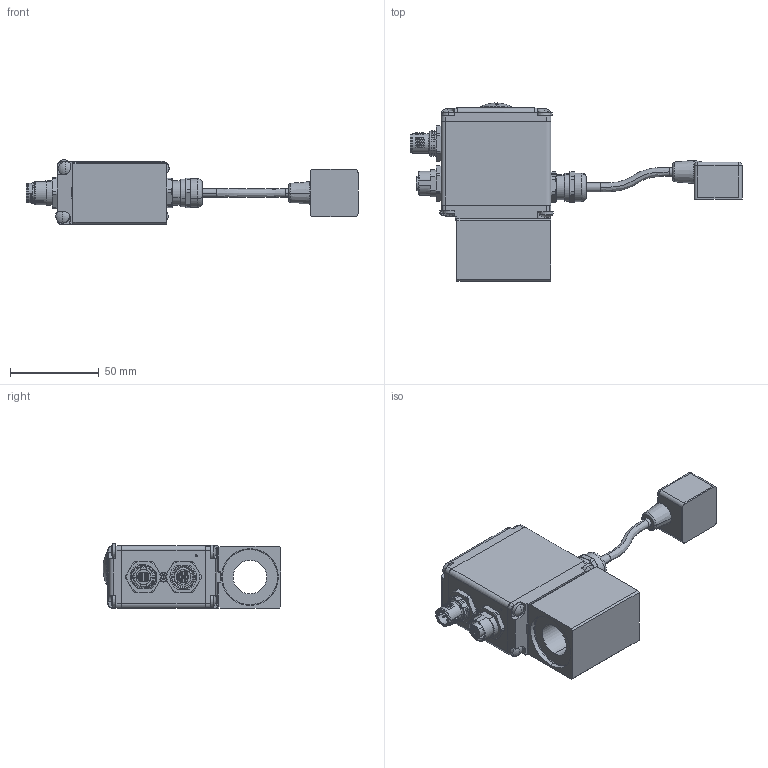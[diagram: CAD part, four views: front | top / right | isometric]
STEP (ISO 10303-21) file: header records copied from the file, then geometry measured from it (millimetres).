
FILE_DESCRIPTION (( 'STEP AP214' ), '1' );
FILE_NAME ('ME35_19x50-...P..STEP', '2014-04-03T08:40:14', ( '' ), ( '' ), 'SwSTEP 2.0', 'SolidWorks 2012', '' );
FILE_SCHEMA (( 'AUTOMOTIVE_DESIGN' ));
Length unit declared in the file: millimetre
Products named in the file (1): ME35_19x50-...P.
Bounding box: 187.3 x 100.39 x 36.48 mm (x, y, z)
Volume: 141139.4 mm3; surface area: 51239.8 mm2
Topology: 4 solids, 4 shells, 2554 faces, 7063 edges, 4584 vertices
Faces by surface type: plane 1460, cylinder 681, torus 170, cone 138, bspline 76, sphere 29
Entity records: 90499 total; most frequent: CARTESIAN_POINT 21262, ORIENTED_EDGE 14090, DIRECTION 12590, EDGE_CURVE 7045, LINE 4672, VECTOR 4672, VERTEX_POINT 4584, AXIS2_PLACEMENT_3D 3959
